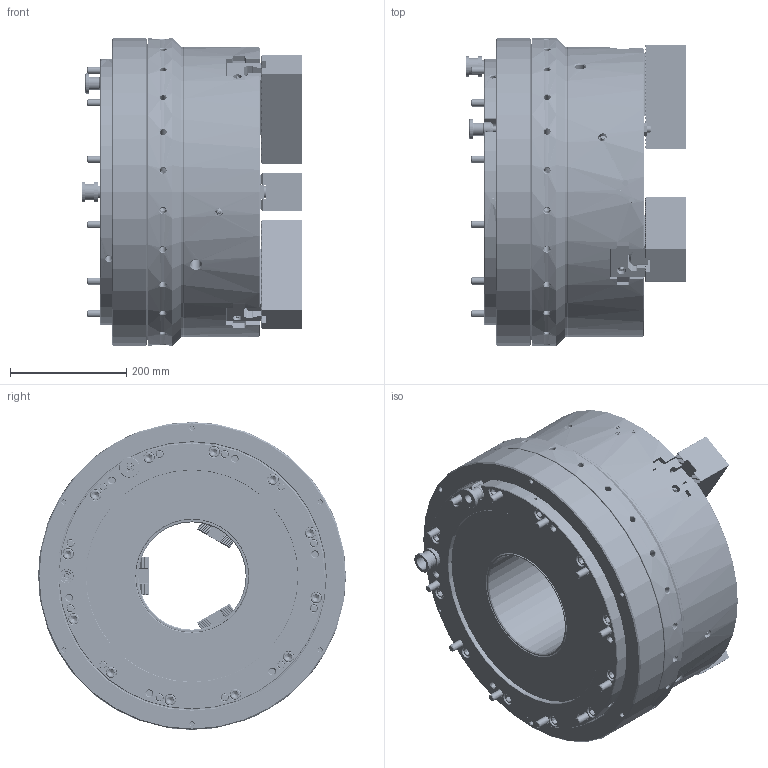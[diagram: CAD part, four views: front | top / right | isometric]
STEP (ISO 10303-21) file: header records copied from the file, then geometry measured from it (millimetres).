
FILE_DESCRIPTION (( 'STEP AP214' ), '1' );
FILE_NAME ('UPR530A185_HCL.STEP', '2025-10-24T02:39:28', ( '' ), ( '' ), 'SwSTEP 2.0', 'SolidWorks 2022', '' );
FILE_SCHEMA (( 'AUTOMOTIVE_DESIGN' ));
Length unit declared in the file: millimetre
Products named in the file (5): Copy of 61P372874^UPR530A185_VIEW; Copy of 61P493019^UPR530A185_VIEW; Copy of 0030120050^UPR530A185_VIEW; Part2^UPR530A185_VIEW; UPR530A185_HCL
Assembly tree (16 placements, depth 2):
  UPR530A185_HCL
    Copy of 61P372874^UPR530A185_VIEW  x3
    Copy of 61P493019^UPR530A185_VIEW  x6
    Copy of 0030120050^UPR530A185_VIEW  x6
    Part2^UPR530A185_VIEW
Bounding box: 379.19 x 530 x 530 mm (x, y, z)
Volume: 49167311.2 mm3; surface area: 2313085 mm2
Topology: 17 solids, 33 shells, 9090 faces, 24810 edges, 16140 vertices
Faces by surface type: plane 4762, cylinder 2269, bspline 960, cone 955, torus 132, sphere 12
Entity records: 266726 total; most frequent: CARTESIAN_POINT 95675, ORIENTED_EDGE 38552, DIRECTION 29812, EDGE_CURVE 19276, VERTEX_POINT 12585, VECTOR 12282, LINE 12282, AXIS2_PLACEMENT_3D 8765
